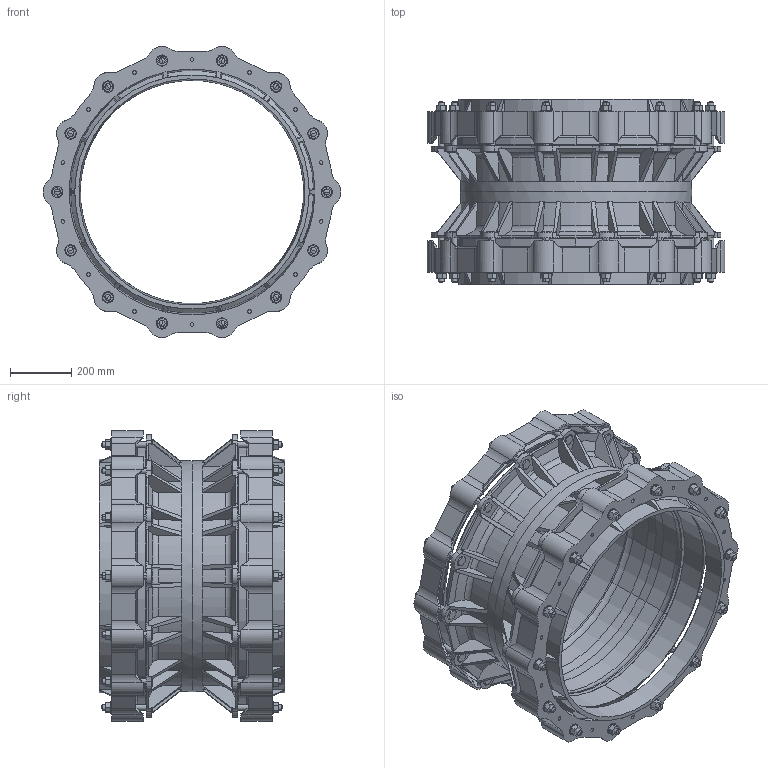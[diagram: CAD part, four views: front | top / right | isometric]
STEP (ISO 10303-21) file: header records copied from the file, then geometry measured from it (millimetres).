
FILE_DESCRIPTION((''),'2;1');
FILE_NAME('BIM_13198_20_ASM','2020-07-27T',('MReader'),(''),'CREO PARAMETRIC BY PTC INC, 2016130','CREO PARAMETRIC BY PTC INC, 2016130','');
FILE_SCHEMA(('CONFIG_CONTROL_DESIGN'));
Length unit declared in the file: millimetre
Products named in the file (4): BIM_13419_4; 676-726_GASKET_BIM; BIM_13417_5; BIM_13198_20_ASM
Assembly tree (5 placements, depth 2):
  BIM_13198_20_ASM
    BIM_13419_4
    676-726_GASKET_BIM  x2
    BIM_13417_5  x2
Bounding box: 972 x 605 x 949.82 mm (x, y, z)
Volume: 46327944.1 mm3; surface area: 7148821.4 mm2
Topology: 5 solids, 5 shells, 2194 faces, 5836 edges, 3796 vertices
Faces by surface type: plane 1050, cylinder 652, cone 376, torus 60, sphere 56
Entity records: 55334 total; most frequent: CARTESIAN_POINT 12975, ORIENTED_EDGE 9080, DIRECTION 8568, EDGE_CURVE 4540, AXIS2_PLACEMENT_3D 3259, VERTEX_POINT 2990, VECTOR 2050, LINE 2050
